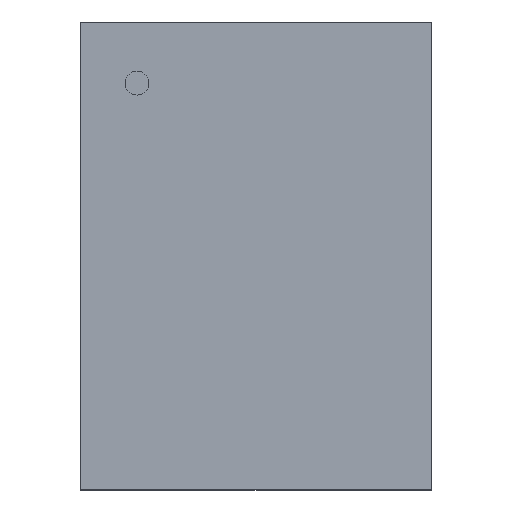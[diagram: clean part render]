
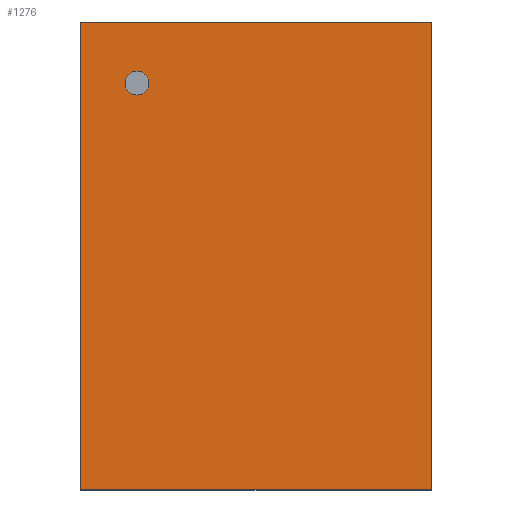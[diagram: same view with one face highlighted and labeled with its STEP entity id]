
A CAD part, top view. The second image highlights one B-rep face of the part: STEP entity #1276.
In plain terms, the highlighted planar face has unit normal (0, 0, 1).
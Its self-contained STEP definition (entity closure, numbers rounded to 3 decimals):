
#128 = VERTEX_POINT ( 'NONE', #165 ) ;
#165 = CARTESIAN_POINT ( 'NONE',  ( -1.5, -2., 0.68 ) ) ;
#286 = EDGE_CURVE ( 'NONE', #2187, #1299, #2227, .T. ) ;
#398 = DIRECTION ( 'NONE',  ( 0., 0., 1. ) ) ;
#460 = AXIS2_PLACEMENT_3D ( 'NONE', #3365, #4507, #1269 ) ;
#543 = EDGE_LOOP ( 'NONE', ( #3536, #3784, #3600, #4289 ) ) ;
#568 = CARTESIAN_POINT ( 'NONE',  ( 1.5, -2., 0.68 ) ) ;
#585 = CARTESIAN_POINT ( 'NONE',  ( -1.5, -2., 0.68 ) ) ;
#608 = VECTOR ( 'NONE', #2332, 1000. ) ;
#759 = EDGE_CURVE ( 'NONE', #2974, #128, #2315, .T. ) ;
#853 = FACE_BOUND ( 'NONE', #2017, .T. ) ;
#881 = DIRECTION ( 'NONE',  ( 1., 0., 0. ) ) ;
#884 = DIRECTION ( 'NONE',  ( 1., 0., 0. ) ) ;
#1269 = DIRECTION ( 'NONE',  ( -1., 0., 0. ) ) ;
#1276 = ADVANCED_FACE ( 'NONE', ( #853, #2932 ), #3312, .F. ) ;
#1278 = LINE ( 'NONE', #585, #3958 ) ;
#1299 = VERTEX_POINT ( 'NONE', #2318 ) ;
#1378 = CIRCLE ( 'NONE', #2539, 0.102 ) ;
#1478 = ORIENTED_EDGE ( 'NONE', *, *, #286, .F. ) ;
#1622 = EDGE_CURVE ( 'NONE', #3923, #4286, #3717, .T. ) ;
#1812 = DIRECTION ( 'NONE',  ( -1., 0., 0. ) ) ;
#1890 = ORIENTED_EDGE ( 'NONE', *, *, #4363, .F. ) ;
#1913 = EDGE_CURVE ( 'NONE', #128, #3923, #1278, .T. ) ;
#2000 = DIRECTION ( 'NONE',  ( 0., -1., 0. ) ) ;
#2017 = EDGE_LOOP ( 'NONE', ( #1478, #1890 ) ) ;
#2182 = CARTESIAN_POINT ( 'NONE',  ( -1.5, 2., 0.68 ) ) ;
#2187 = VERTEX_POINT ( 'NONE', #3083 ) ;
#2227 = CIRCLE ( 'NONE', #2447, 0.102 ) ;
#2315 = LINE ( 'NONE', #4116, #3277 ) ;
#2318 = CARTESIAN_POINT ( 'NONE',  ( -1.119, 1.477, 0.68 ) ) ;
#2332 = DIRECTION ( 'NONE',  ( 0., 1., 0. ) ) ;
#2447 = AXIS2_PLACEMENT_3D ( 'NONE', #4104, #2692, #881 ) ;
#2539 = AXIS2_PLACEMENT_3D ( 'NONE', #3891, #398, #3173 ) ;
#2649 = CARTESIAN_POINT ( 'NONE',  ( 1.5, -2., 0.68 ) ) ;
#2692 = DIRECTION ( 'NONE',  ( 0., 0., 1. ) ) ;
#2717 = CARTESIAN_POINT ( 'NONE',  ( 1.5, 2., 0.68 ) ) ;
#2932 = FACE_OUTER_BOUND ( 'NONE', #543, .T. ) ;
#2974 = VERTEX_POINT ( 'NONE', #2182 ) ;
#2981 = EDGE_CURVE ( 'NONE', #4286, #2974, #4305, .T. ) ;
#3083 = CARTESIAN_POINT ( 'NONE',  ( -0.916, 1.477, 0.68 ) ) ;
#3173 = DIRECTION ( 'NONE',  ( 1., 0., 0. ) ) ;
#3277 = VECTOR ( 'NONE', #2000, 1000. ) ;
#3312 = PLANE ( 'NONE',  #460 ) ;
#3365 = CARTESIAN_POINT ( 'NONE',  ( 0., 0., 0.68 ) ) ;
#3536 = ORIENTED_EDGE ( 'NONE', *, *, #1622, .T. ) ;
#3600 = ORIENTED_EDGE ( 'NONE', *, *, #759, .T. ) ;
#3717 = LINE ( 'NONE', #568, #608 ) ;
#3784 = ORIENTED_EDGE ( 'NONE', *, *, #2981, .T. ) ;
#3841 = VECTOR ( 'NONE', #1812, 1000. ) ;
#3891 = CARTESIAN_POINT ( 'NONE',  ( -1.017, 1.477, 0.68 ) ) ;
#3923 = VERTEX_POINT ( 'NONE', #2649 ) ;
#3958 = VECTOR ( 'NONE', #884, 1000. ) ;
#3962 = CARTESIAN_POINT ( 'NONE',  ( -1.5, 2., 0.68 ) ) ;
#4104 = CARTESIAN_POINT ( 'NONE',  ( -1.017, 1.477, 0.68 ) ) ;
#4116 = CARTESIAN_POINT ( 'NONE',  ( -1.5, -2., 0.68 ) ) ;
#4286 = VERTEX_POINT ( 'NONE', #2717 ) ;
#4289 = ORIENTED_EDGE ( 'NONE', *, *, #1913, .T. ) ;
#4305 = LINE ( 'NONE', #3962, #3841 ) ;
#4363 = EDGE_CURVE ( 'NONE', #1299, #2187, #1378, .T. ) ;
#4507 = DIRECTION ( 'NONE',  ( 0., 0., -1. ) ) ;
